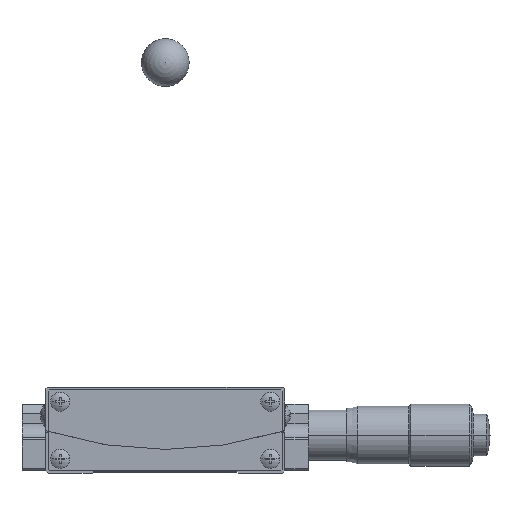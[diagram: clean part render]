
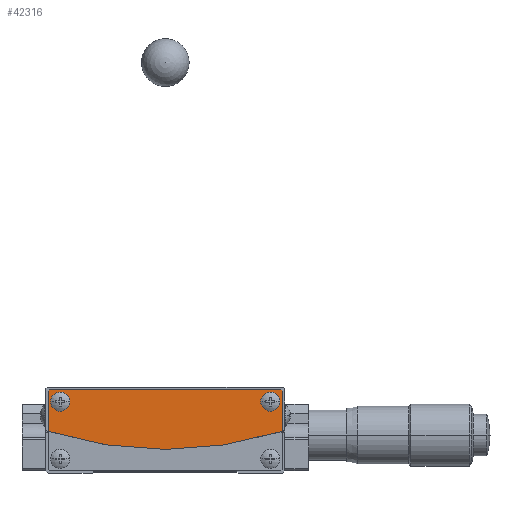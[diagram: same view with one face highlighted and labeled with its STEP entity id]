
A CAD part, front view. The second image highlights one B-rep face of the part: STEP entity #42316.
In plain terms, the highlighted planar face has unit normal (0, -1, 0).
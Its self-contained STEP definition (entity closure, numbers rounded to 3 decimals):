
#11187 = CARTESIAN_POINT ( 'NONE',  ( 20., -25.5, -3. ) ) ;
#11188 = CARTESIAN_POINT ( 'NONE',  ( 24., -25.5, -3. ) ) ;
#11189 = DIRECTION ( 'NONE',  ( 0., 0., -1. ) ) ;
#11190 = DIRECTION ( 'NONE',  ( 0., -1., 0. ) ) ;
#11191 = CARTESIAN_POINT ( 'NONE',  ( 22., -25.5, -3. ) ) ;
#11192 = AXIS2_PLACEMENT_3D ( 'NONE', #11191, #11190, #11189 ) ;
#11193 = CIRCLE ( 'NONE', #11192, 2. ) ;
#11286 = CARTESIAN_POINT ( 'NONE',  ( -24., -25.5, -3. ) ) ;
#11287 = CARTESIAN_POINT ( 'NONE',  ( -20., -25.5, -3. ) ) ;
#11288 = DIRECTION ( 'NONE',  ( 0., 0., -1. ) ) ;
#11289 = DIRECTION ( 'NONE',  ( 0., -1., 0. ) ) ;
#11290 = CARTESIAN_POINT ( 'NONE',  ( -22., -25.5, -3. ) ) ;
#11291 = AXIS2_PLACEMENT_3D ( 'NONE', #11290, #11289, #11288 ) ;
#11292 = CIRCLE ( 'NONE', #11291, 2. ) ;
#23461 = EDGE_CURVE ( 'NONE', #23462, #23463, #11193, .T. ) ;
#23462 = VERTEX_POINT ( 'NONE', #11188 ) ;
#23463 = VERTEX_POINT ( 'NONE', #11187 ) ;
#23501 = EDGE_CURVE ( 'NONE', #23502, #23503, #11292, .T. ) ;
#23502 = VERTEX_POINT ( 'NONE', #11287 ) ;
#23503 = VERTEX_POINT ( 'NONE', #11286 ) ;
#38068 = VERTEX_POINT ( 'NONE', #53992 ) ;
#38199 = VERTEX_POINT ( 'NONE', #54128 ) ;
#38206 = EDGE_CURVE ( 'NONE', #38068, #38199, #54120, .T. ) ;
#41607 = EDGE_CURVE ( 'NONE', #23503, #23502, #57160, .T. ) ;
#42189 = EDGE_CURVE ( 'NONE', #23463, #23462, #57687, .T. ) ;
#42194 = EDGE_LOOP ( 'NONE', ( #42196, #42410, #42271, #42278, #42286, #42292 ) ) ;
#42196 = ORIENTED_EDGE ( 'NONE', *, *, #42405, .T. ) ;
#42268 = EDGE_CURVE ( 'NONE', #42407, #42269, #57747, .T. ) ;
#42269 = VERTEX_POINT ( 'NONE', #57740 ) ;
#42271 = ORIENTED_EDGE ( 'NONE', *, *, #42274, .T. ) ;
#42274 = EDGE_CURVE ( 'NONE', #42269, #42275, #57805, .T. ) ;
#42275 = VERTEX_POINT ( 'NONE', #57801 ) ;
#42278 = ORIENTED_EDGE ( 'NONE', *, *, #42281, .T. ) ;
#42281 = EDGE_CURVE ( 'NONE', #42275, #38068, #57780, .T. ) ;
#42286 = ORIENTED_EDGE ( 'NONE', *, *, #38206, .T. ) ;
#42292 = ORIENTED_EDGE ( 'NONE', *, *, #42294, .T. ) ;
#42294 = EDGE_CURVE ( 'NONE', #38199, #42406, #57844, .T. ) ;
#42316 = ADVANCED_FACE ( 'NONE', ( #57810, #57809, #57808 ), #57807, .T. ) ;
#42321 = EDGE_LOOP ( 'NONE', ( #42327, #42329 ) ) ;
#42327 = ORIENTED_EDGE ( 'NONE', *, *, #23501, .F. ) ;
#42329 = ORIENTED_EDGE ( 'NONE', *, *, #41607, .F. ) ;
#42331 = EDGE_LOOP ( 'NONE', ( #42336, #42339 ) ) ;
#42336 = ORIENTED_EDGE ( 'NONE', *, *, #23461, .F. ) ;
#42339 = ORIENTED_EDGE ( 'NONE', *, *, #42189, .F. ) ;
#42405 = EDGE_CURVE ( 'NONE', #42406, #42407, #57973, .T. ) ;
#42406 = VERTEX_POINT ( 'NONE', #57969 ) ;
#42407 = VERTEX_POINT ( 'NONE', #57968 ) ;
#42410 = ORIENTED_EDGE ( 'NONE', *, *, #42268, .T. ) ;
#53992 = CARTESIAN_POINT ( 'NONE',  ( -24.5, -25.5, -9.206 ) ) ;
#54117 = DIRECTION ( 'NONE',  ( 1., 0., 0. ) ) ;
#54118 = DIRECTION ( 'NONE',  ( 0., -1., 0. ) ) ;
#54119 = AXIS2_PLACEMENT_3D ( 'NONE', #54126, #54118, #54117 ) ;
#54120 = CIRCLE ( 'NONE', #54119, 81. ) ;
#54126 = CARTESIAN_POINT ( 'NONE',  ( 0., -25.5, 68. ) ) ;
#54128 = CARTESIAN_POINT ( 'NONE',  ( 24.5, -25.5, -9.206 ) ) ;
#57156 = DIRECTION ( 'NONE',  ( 0., 0., -1. ) ) ;
#57157 = DIRECTION ( 'NONE',  ( 0., -1., 0. ) ) ;
#57158 = CARTESIAN_POINT ( 'NONE',  ( -22., -25.5, -3. ) ) ;
#57159 = AXIS2_PLACEMENT_3D ( 'NONE', #57158, #57157, #57156 ) ;
#57160 = CIRCLE ( 'NONE', #57159, 2. ) ;
#57684 = DIRECTION ( 'NONE',  ( 0., 0., -1. ) ) ;
#57685 = DIRECTION ( 'NONE',  ( 0., -1., 0. ) ) ;
#57686 = AXIS2_PLACEMENT_3D ( 'NONE', #57692, #57685, #57684 ) ;
#57687 = CIRCLE ( 'NONE', #57686, 2. ) ;
#57692 = CARTESIAN_POINT ( 'NONE',  ( 22., -25.5, -3. ) ) ;
#57740 = CARTESIAN_POINT ( 'NONE',  ( -24.2, -25.5, -0.5 ) ) ;
#57741 = DIRECTION ( 'NONE',  ( -1., 0., 0. ) ) ;
#57742 = VECTOR ( 'NONE', #57741, 1000. ) ;
#57743 = CARTESIAN_POINT ( 'NONE',  ( 24.2, -25.5, -0.5 ) ) ;
#57747 = LINE ( 'NONE', #57743, #57742 ) ;
#57777 = DIRECTION ( 'NONE',  ( 0., 0., -1. ) ) ;
#57778 = VECTOR ( 'NONE', #57777, 1000. ) ;
#57779 = CARTESIAN_POINT ( 'NONE',  ( -24.5, -25.5, -0.8 ) ) ;
#57780 = LINE ( 'NONE', #57779, #57778 ) ;
#57801 = CARTESIAN_POINT ( 'NONE',  ( -24.5, -25.5, -0.8 ) ) ;
#57802 = DIRECTION ( 'NONE',  ( -0.707, 0., -0.707 ) ) ;
#57803 = VECTOR ( 'NONE', #57802, 1000. ) ;
#57804 = CARTESIAN_POINT ( 'NONE',  ( -24.2, -25.5, -0.5 ) ) ;
#57805 = LINE ( 'NONE', #57804, #57803 ) ;
#57807 = PLANE ( 'NONE',  #57876 ) ;
#57808 = FACE_OUTER_BOUND ( 'NONE', #42194, .T. ) ;
#57809 = FACE_BOUND ( 'NONE', #42331, .T. ) ;
#57810 = FACE_BOUND ( 'NONE', #42321, .T. ) ;
#57841 = DIRECTION ( 'NONE',  ( 0., 0., 1. ) ) ;
#57842 = VECTOR ( 'NONE', #57841, 1000. ) ;
#57843 = CARTESIAN_POINT ( 'NONE',  ( 24.5, -25.5, -9.206 ) ) ;
#57844 = LINE ( 'NONE', #57843, #57842 ) ;
#57873 = DIRECTION ( 'NONE',  ( 1., 0., 0. ) ) ;
#57874 = DIRECTION ( 'NONE',  ( 0., -1., 0. ) ) ;
#57875 = CARTESIAN_POINT ( 'NONE',  ( 0., -25.5, 68. ) ) ;
#57876 = AXIS2_PLACEMENT_3D ( 'NONE', #57875, #57874, #57873 ) ;
#57968 = CARTESIAN_POINT ( 'NONE',  ( 24.2, -25.5, -0.5 ) ) ;
#57969 = CARTESIAN_POINT ( 'NONE',  ( 24.5, -25.5, -0.8 ) ) ;
#57970 = DIRECTION ( 'NONE',  ( -0.707, 0., 0.707 ) ) ;
#57971 = VECTOR ( 'NONE', #57970, 1000. ) ;
#57972 = CARTESIAN_POINT ( 'NONE',  ( 24.5, -25.5, -0.8 ) ) ;
#57973 = LINE ( 'NONE', #57972, #57971 ) ;
